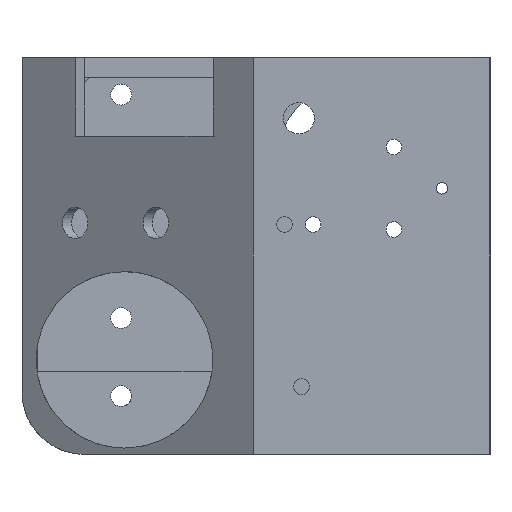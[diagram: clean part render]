
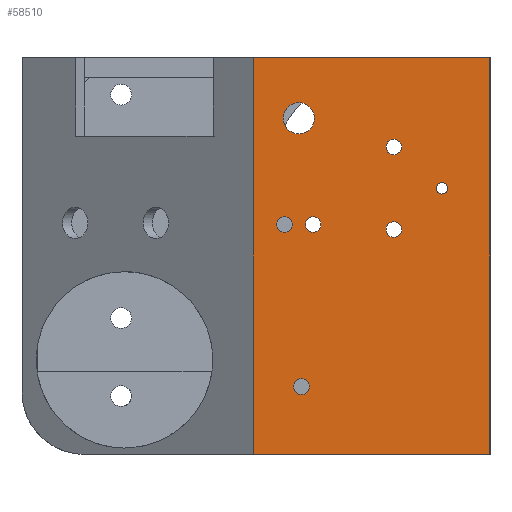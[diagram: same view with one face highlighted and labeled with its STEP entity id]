
A CAD part, left-side view. The second image highlights one B-rep face of the part: STEP entity #58510.
In plain terms, the highlighted planar face has unit normal (-1, 0, 0).
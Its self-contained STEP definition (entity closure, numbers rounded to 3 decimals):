
#550=CARTESIAN_POINT('',(-11.75,27.55,0.));
#560=VERTEX_POINT('',#550);
#610=CARTESIAN_POINT('',(-11.75,-16.9,0.));
#620=DIRECTION('',(0.,1.,0.));
#630=VECTOR('',#620,1.);
#640=LINE('',#610,#630);
#650=CARTESIAN_POINT('',(-11.75,-17.9,0.));
#660=VERTEX_POINT('',#650);
#670=EDGE_CURVE('',#660,#560,#640,.T.);
#1150=CARTESIAN_POINT('',(-11.75,-16.9,76.2));
#1160=DIRECTION('',(0.,1.,0.));
#1170=VECTOR('',#1160,1.);
#1180=LINE('',#1150,#1170);
#1190=CARTESIAN_POINT('',(-11.75,-17.9,76.2));
#1200=VERTEX_POINT('',#1190);
#1210=CARTESIAN_POINT('',(-11.75,27.55,76.2));
#1220=VERTEX_POINT('',#1210);
#1230=EDGE_CURVE('',#1200,#1220,#1180,.T.);
#20300=CARTESIAN_POINT('',(-11.75,18.339,11.5));
#20310=VERTEX_POINT('',#20300);
#20390=CARTESIAN_POINT('',(-11.75,18.339,14.5));
#20400=VERTEX_POINT('',#20390);
#20430=CARTESIAN_POINT('',(-11.75,18.339,13.));
#20440=DIRECTION('',(1.,0.,0.));
#20450=DIRECTION('',(0.,0.,-1.));
#20460=AXIS2_PLACEMENT_3D('',#20430,#20440,#20450);
#20470=CIRCLE('',#20460,1.5);
#20480=EDGE_CURVE('',#20400,#20310,#20470,.T.);
#22000=CARTESIAN_POINT('',(-11.75,16.09,42.653));
#22010=VERTEX_POINT('',#22000);
#22090=CARTESIAN_POINT('',(-11.75,16.09,45.653));
#22100=VERTEX_POINT('',#22090);
#22130=CARTESIAN_POINT('',(-11.75,16.09,44.153));
#22140=DIRECTION('',(1.,0.,0.));
#22150=DIRECTION('',(0.,0.,-1.));
#22160=AXIS2_PLACEMENT_3D('',#22130,#22140,#22150);
#22170=CIRCLE('',#22160,1.5);
#22180=EDGE_CURVE('',#22100,#22010,#22170,.T.);
#22430=CARTESIAN_POINT('',(-11.75,21.55,42.653));
#22440=VERTEX_POINT('',#22430);
#22520=CARTESIAN_POINT('',(-11.75,21.55,45.653));
#22530=VERTEX_POINT('',#22520);
#22560=CARTESIAN_POINT('',(-11.75,21.55,44.153));
#22570=DIRECTION('',(1.,0.,0.));
#22580=DIRECTION('',(0.,0.,-1.));
#22590=AXIS2_PLACEMENT_3D('',#22560,#22570,#22580);
#22600=CIRCLE('',#22590,1.5);
#22610=EDGE_CURVE('',#22530,#22440,#22600,.T.);
#38900=CARTESIAN_POINT('',(-11.75,18.82,61.55));
#38910=VERTEX_POINT('',#38900);
#38990=CARTESIAN_POINT('',(-11.75,18.82,67.55));
#39000=VERTEX_POINT('',#38990);
#39030=CARTESIAN_POINT('',(-11.75,18.82,64.55));
#39040=DIRECTION('',(1.,0.,0.));
#39050=DIRECTION('',(0.,0.,-1.));
#39060=AXIS2_PLACEMENT_3D('',#39030,#39040,#39050);
#39070=CIRCLE('',#39060,3.);
#39080=EDGE_CURVE('',#39000,#38910,#39070,.T.);
#46000=CARTESIAN_POINT('',(-11.75,-8.675,50.));
#46010=VERTEX_POINT('',#46000);
#46090=CARTESIAN_POINT('',(-11.75,-8.675,52.2));
#46100=VERTEX_POINT('',#46090);
#46130=CARTESIAN_POINT('',(-11.75,-8.675,51.1));
#46140=DIRECTION('',(1.,0.,0.));
#46150=DIRECTION('',(0.,0.,-1.));
#46160=AXIS2_PLACEMENT_3D('',#46130,#46140,#46150);
#46170=CIRCLE('',#46160,1.1);
#46180=EDGE_CURVE('',#46100,#46010,#46170,.T.);
#50590=EDGE_CURVE('',#22440,#22530,#22600,.T.);
#53530=EDGE_CURVE('',#38910,#39000,#39070,.T.);
#54190=EDGE_CURVE('',#20310,#20400,#20470,.T.);
#54660=EDGE_CURVE('',#46010,#46100,#46170,.T.);
#55160=EDGE_CURVE('',#22010,#22100,#22170,.T.);
#55290=CARTESIAN_POINT('',(-11.75,-17.9,0.));
#55300=DIRECTION('',(0.,0.,1.));
#55310=VECTOR('',#55300,1.);
#55320=LINE('',#55290,#55310);
#55330=EDGE_CURVE('',#660,#1200,#55320,.T.);
#57770=CARTESIAN_POINT('',(-11.75,27.55,0.));
#57780=DIRECTION('',(0.,0.,1.));
#57790=VECTOR('',#57780,1.);
#57800=LINE('',#57770,#57790);
#57810=EDGE_CURVE('',#560,#1220,#57800,.T.);
#57900=CARTESIAN_POINT('',(-11.75,-16.9,0.));
#57910=DIRECTION('',(-1.,0.,0.));
#57920=DIRECTION('',(0.,1.,0.));
#57930=AXIS2_PLACEMENT_3D('',#57900,#57910,#57920);
#57940=PLANE('',#57930);
#57950=ORIENTED_EDGE('',*,*,#53530,.T.);
#57960=ORIENTED_EDGE('',*,*,#39080,.T.);
#57970=EDGE_LOOP('',(#57960,#57950));
#57980=FACE_BOUND('',#57970,.T.);
#57990=ORIENTED_EDGE('',*,*,#50590,.T.);
#58000=ORIENTED_EDGE('',*,*,#22610,.T.);
#58010=EDGE_LOOP('',(#58000,#57990));
#58020=FACE_BOUND('',#58010,.T.);
#58030=CARTESIAN_POINT('',(-11.75,0.565,43.163));
#58040=DIRECTION('',(1.,0.,0.));
#58050=DIRECTION('',(0.,0.,-1.));
#58060=AXIS2_PLACEMENT_3D('',#58030,#58040,#58050);
#58070=CIRCLE('',#58060,1.5);
#58080=CARTESIAN_POINT('',(-11.75,0.565,41.663));
#58090=VERTEX_POINT('',#58080);
#58100=CARTESIAN_POINT('',(-11.75,0.565,44.663));
#58110=VERTEX_POINT('',#58100);
#58120=EDGE_CURVE('',#58090,#58110,#58070,.T.);
#58130=ORIENTED_EDGE('',*,*,#58120,.T.);
#58140=EDGE_CURVE('',#58110,#58090,#58070,.T.);
#58150=ORIENTED_EDGE('',*,*,#58140,.T.);
#58160=EDGE_LOOP('',(#58150,#58130));
#58170=FACE_BOUND('',#58160,.T.);
#58180=ORIENTED_EDGE('',*,*,#57810,.F.);
#58190=ORIENTED_EDGE('',*,*,#1230,.T.);
#58200=ORIENTED_EDGE('',*,*,#55330,.T.);
#58210=ORIENTED_EDGE('',*,*,#670,.F.);
#58220=EDGE_LOOP('',(#58210,#58200,#58190,#58180));
#58230=FACE_OUTER_BOUND('',#58220,.T.);
#58240=CARTESIAN_POINT('',(-11.75,0.565,59.038));
#58250=DIRECTION('',(1.,0.,0.));
#58260=DIRECTION('',(0.,0.,-1.));
#58270=AXIS2_PLACEMENT_3D('',#58240,#58250,#58260);
#58280=CIRCLE('',#58270,1.5);
#58290=CARTESIAN_POINT('',(-11.75,0.565,57.538));
#58300=VERTEX_POINT('',#58290);
#58310=CARTESIAN_POINT('',(-11.75,0.565,60.538));
#58320=VERTEX_POINT('',#58310);
#58330=EDGE_CURVE('',#58300,#58320,#58280,.T.);
#58340=ORIENTED_EDGE('',*,*,#58330,.T.);
#58350=EDGE_CURVE('',#58320,#58300,#58280,.T.);
#58360=ORIENTED_EDGE('',*,*,#58350,.T.);
#58370=EDGE_LOOP('',(#58360,#58340));
#58380=FACE_BOUND('',#58370,.T.);
#58390=ORIENTED_EDGE('',*,*,#55160,.T.);
#58400=ORIENTED_EDGE('',*,*,#22180,.T.);
#58410=EDGE_LOOP('',(#58400,#58390));
#58420=FACE_BOUND('',#58410,.T.);
#58430=ORIENTED_EDGE('',*,*,#54190,.T.);
#58440=ORIENTED_EDGE('',*,*,#20480,.T.);
#58450=EDGE_LOOP('',(#58440,#58430));
#58460=FACE_BOUND('',#58450,.T.);
#58470=ORIENTED_EDGE('',*,*,#54660,.T.);
#58480=ORIENTED_EDGE('',*,*,#46180,.T.);
#58490=EDGE_LOOP('',(#58480,#58470));
#58500=FACE_BOUND('',#58490,.T.);
#58510=ADVANCED_FACE('',(#57980,#58020,#58170,#58230,#58380,#58420,
#58460,#58500),#57940,.T.);
